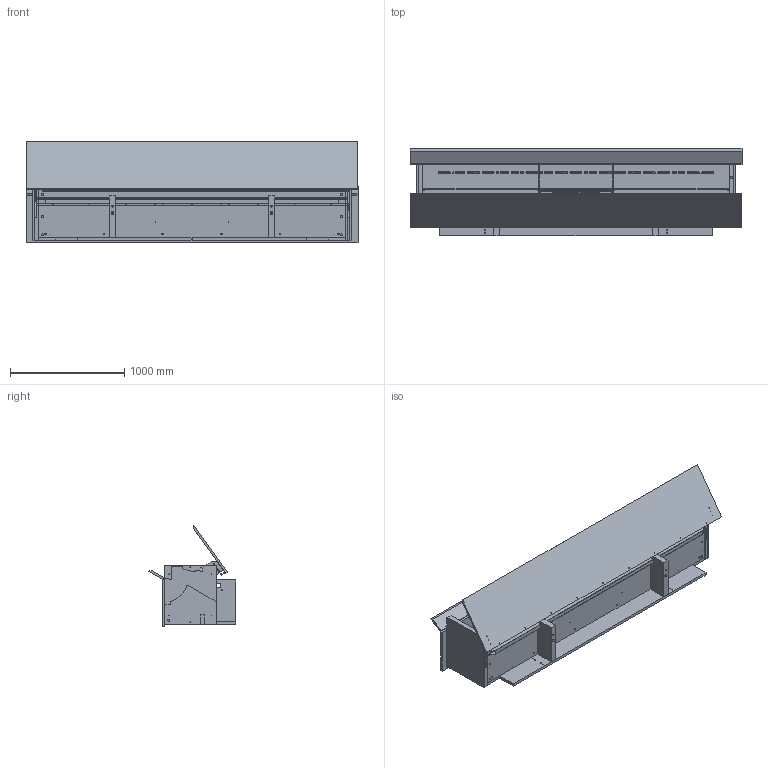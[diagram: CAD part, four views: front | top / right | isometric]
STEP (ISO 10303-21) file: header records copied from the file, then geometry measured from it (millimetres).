
FILE_DESCRIPTION (( 'STEP AP203' ), '1' );
FILE_NAME ('Assieme 290.STEP', '2021-08-31T12:41:41', ( '' ), ( '' ), 'SwSTEP 2.0', 'SolidWorks 2019', '' );
FILE_SCHEMA (( 'CONFIG_CONTROL_DESIGN' ));
Length unit declared in the file: millimetre
Products named in the file (22): Top per credenza 290; Staffa DX; Schermi per lampade LED 290; Fondo forato per credenza 290; Ripiani in legno per credenza; Astina per cassetti; Assieme 290; Staffa SX; Profilo di sostegno per credenza (290); Fianco interno per credenza; Fianco esterno per credenza; Alzatina per credenza 290; Fianco interno per credenza DX; Piede inox per credenza; Profilo per anta (290); Telaio interno per cassettiera; ''Oblo per illuminazione; Ripiano in vetro 1012; Cassetto per credenza; Perno reggipiano filettato; Anta per credenza 290; Schiena forata per credenza 290
Assembly tree (73 placements, depth 2):
  Assieme 290
    Profilo di sostegno per credenza (290)
    Piede inox per credenza  x2
    Fondo forato per credenza 290
    Schiena forata per credenza 290
    Top per credenza 290
    Alzatina per credenza 290
    Fianco interno per credenza
    Fianco esterno per credenza  x2
    Telaio interno per cassettiera  x2
    ''Oblo per illuminazione  x38
    Astina per cassetti  x4
    Cassetto per credenza  x2
    Ripiani in legno per credenza
    Staffa SX
    Ripiano in vetro 1012  x2
    Anta per credenza 290
    Profilo per anta (290)
    Schermi per lampade LED 290
    Staffa DX
    Perno reggipiano filettato  x8
    Fianco interno per credenza DX
Bounding box: 2900 x 762.84 x 889.33 mm (x, y, z)
Volume: 181122996.4 mm3; surface area: 22403635.2 mm2
Topology: 78 solids, 78 shells, 2339 faces, 5247 edges, 3356 vertices
Faces by surface type: plane 1323, cylinder 668, cone 260, torus 78, bspline 6, sphere 4
Full cylindrical faces by diameter (mm): 3 x42, 4 x20, 5 x64, 6 x79, 6.2 x8, 7 x32, 7.2 x8, 7.5 x8, 8 x78, 9 x9, 10 x2, 12 x8, 13 x8, 13.5 x2, 15 x25, 20 x3, 25 x2
Entity records: 39078 total; most frequent: DIRECTION 6316, CARTESIAN_POINT 6157, ORIENTED_EDGE 5168, EDGE_CURVE 2584, AXIS2_PLACEMENT_3D 2439, EDGE_LOOP 2078, VERTEX_POINT 1936, FACE_OUTER_BOUND 1581
